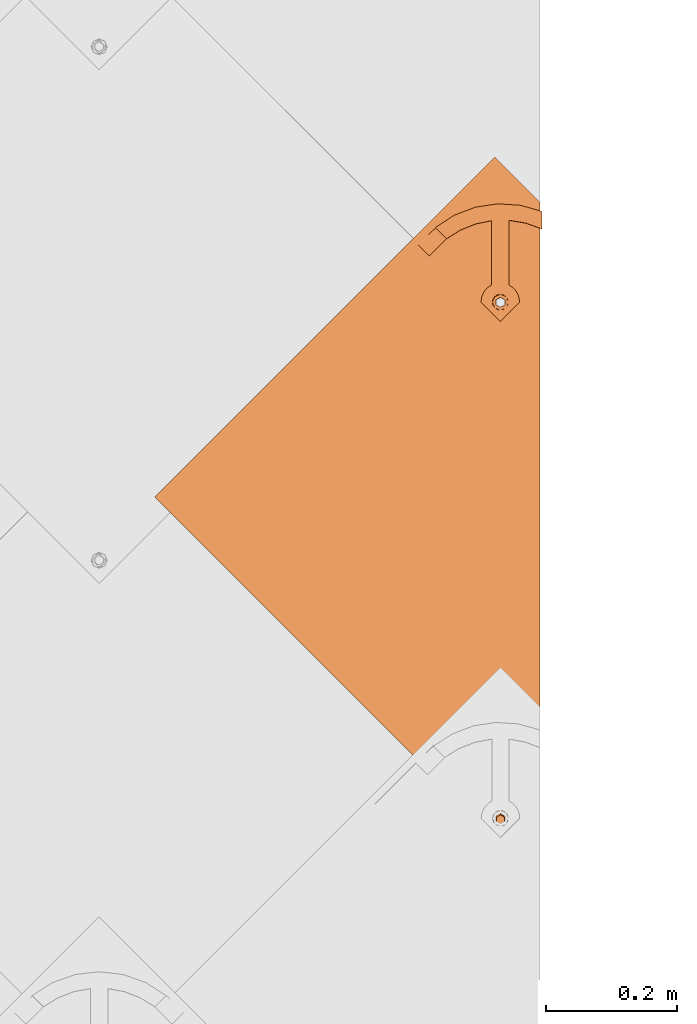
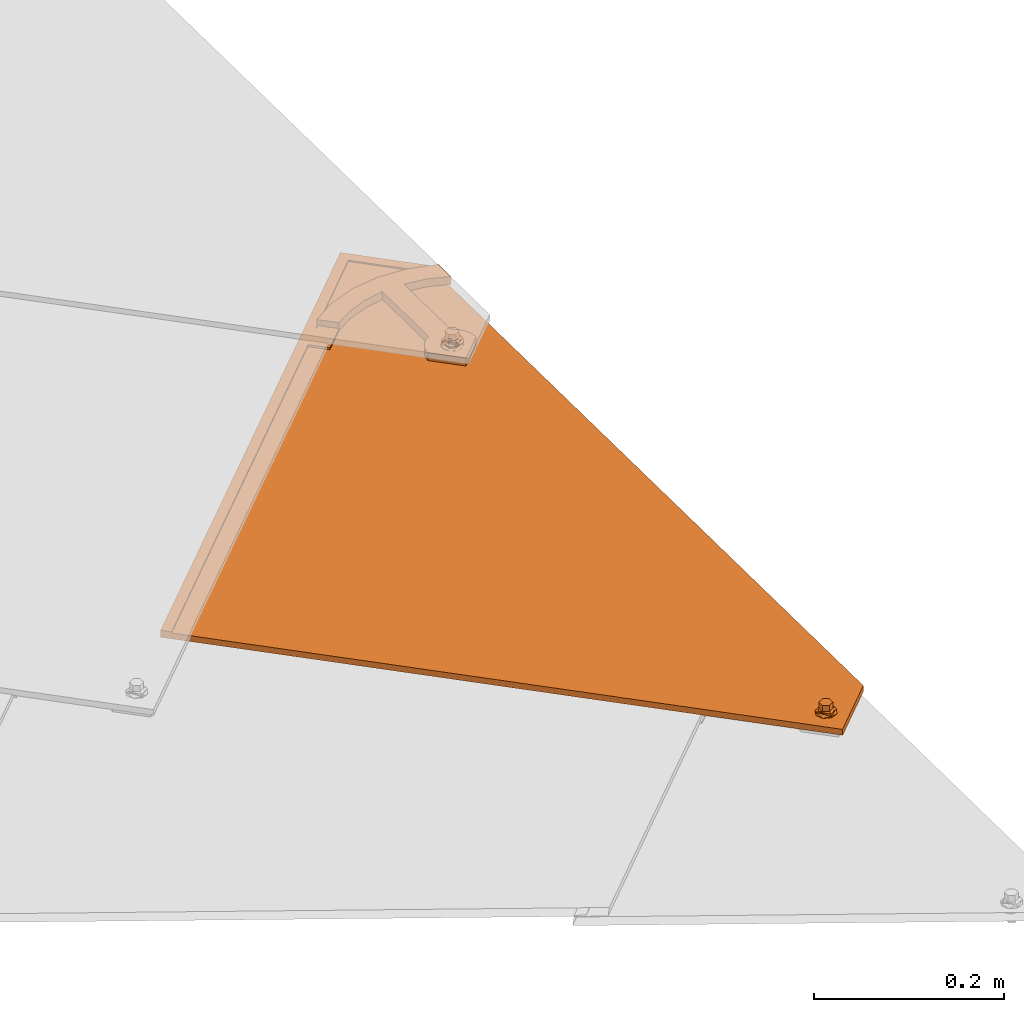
# One storey, part 83 of 151: 1 proxy.
"""IFC2X3 building model written with IfcOpenShell, lengths in millimetres."""

from ifc_helpers import new_model, entity, si_unit, converted_unit, derived_unit, direction, frame, origin, place, context, subcontext, project, spatial, faceted_brep, source, transform, mapped, material, material_list, type_object, type_shapes, element, save


model = new_model("IFC2X3")

# Units and contexts
model_context = context("Model", 3, precision=0.01, world=origin(), true_north=direction((6.12303176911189e-17, 1.0)))
body_context = subcontext(model_context, "Body", "Model", "MODEL_VIEW")
ifc_project = project(units=[si_unit("LENGTHUNIT", "METRE", prefix="MILLI"), si_unit("AREAUNIT", "SQUARE_METRE"), si_unit("VOLUMEUNIT", "CUBIC_METRE"), converted_unit("PLANEANGLEUNIT", "DEGREE", entity("IfcRatioMeasure", 0.0174532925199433), si_unit("PLANEANGLEUNIT", "RADIAN"), dimensions=[0, 0, 0, 0, 0, 0, 0]), si_unit("MASSUNIT", "GRAM", prefix="KILO"), derived_unit("MASSDENSITYUNIT", [(si_unit("MASSUNIT", "GRAM", prefix="KILO"), 1), (si_unit("LENGTHUNIT", "METRE"), -3)]), si_unit("TIMEUNIT", "SECOND"), si_unit("FREQUENCYUNIT", "HERTZ"), si_unit("THERMODYNAMICTEMPERATUREUNIT", "DEGREE_CELSIUS"), derived_unit("THERMALTRANSMITTANCEUNIT", [(si_unit("MASSUNIT", "GRAM", prefix="KILO"), 1), (si_unit("THERMODYNAMICTEMPERATUREUNIT", "KELVIN"), -1), (si_unit("TIMEUNIT", "SECOND"), -3)]), derived_unit("VOLUMETRICFLOWRATEUNIT", [(si_unit("LENGTHUNIT", "METRE"), 3), (si_unit("TIMEUNIT", "SECOND"), -1)]), si_unit("ELECTRICCURRENTUNIT", "AMPERE"), si_unit("ELECTRICVOLTAGEUNIT", "VOLT"), si_unit("POWERUNIT", "WATT"), si_unit("FORCEUNIT", "NEWTON", prefix="KILO"), si_unit("ILLUMINANCEUNIT", "LUX"), si_unit("LUMINOUSFLUXUNIT", "LUMEN"), si_unit("LUMINOUSINTENSITYUNIT", "CANDELA"), derived_unit("USERDEFINED", [(si_unit("MASSUNIT", "GRAM", prefix="KILO"), -1), (si_unit("LENGTHUNIT", "METRE"), -2), (si_unit("TIMEUNIT", "SECOND"), 3), (si_unit("LUMINOUSFLUXUNIT", "LUMEN"), 1)]), derived_unit("LINEARVELOCITYUNIT", [(si_unit("LENGTHUNIT", "METRE"), 1), (si_unit("TIMEUNIT", "SECOND"), -1)]), si_unit("PRESSUREUNIT", "PASCAL"), derived_unit("USERDEFINED", [(si_unit("LENGTHUNIT", "METRE"), -2), (si_unit("MASSUNIT", "GRAM", prefix="KILO"), 1), (si_unit("TIMEUNIT", "SECOND"), -2)])], contexts=[model_context])

# Site, building, storey
site_placement = place(None, origin())
site = spatial("IfcSite", under=ifc_project, at=site_placement, Name="Default", CompositionType="ELEMENT")
building_placement = place(site_placement, origin())
building = spatial("IfcBuilding", under=site, at=building_placement, CompositionType="ELEMENT")
storey_placement = place(building_placement, origin())
storey = spatial("IfcBuildingStorey", under=building, at=storey_placement, Name="Level 1", CompositionType="ELEMENT", Elevation=0.0)

# Proxy
ifc_material_1 = material(Name="Rubber - Sunstyle - Black")
ifc_material_2 = material(Name="Glass - Sunstyle - Tainted Black")
ifc_material_list_1 = material_list([ifc_material_1, ifc_material_2])
ifc_material_list_2 = material_list([ifc_material_1, ifc_material_2])
building_element_proxy_type = type_object("IfcBuildingElementProxyType", Name="Shingle Right - Black", PredefinedType="NOTDEFINED", material=ifc_material_list_2)
shared_shape = source(origin(), body_context, "Body", "Brep", [
    faceted_brep([(526.70519509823, 41.3127833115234, 3.87722628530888), (520.930992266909, 37.9795131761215, 3.9330502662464), (520.930992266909, 38.34782226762, 25.9249196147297), (526.70519509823, 41.6810924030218, 25.8690956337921), (520.930992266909, 31.3129729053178, 4.0446982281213), (520.930992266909, 31.6812819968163, 26.0365675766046), (526.70519509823, 27.979702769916, 4.1005222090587), (526.70519509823, 28.3480118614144, 26.092391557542), (532.47939792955, 31.3129729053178, 4.04469822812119), (532.47939792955, 31.6812819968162, 26.0365675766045), (532.47939792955, 37.9795131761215, 3.93305026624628), (532.47939792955, 38.3478222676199, 25.9249196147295), (518.101490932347, 26.4120542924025, 26.1248140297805), (526.70519509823, 22.8487830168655, 26.1844899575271), (514.537719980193, 35.0145521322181, 25.9807435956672), (518.101490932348, 43.6170499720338, 25.8366731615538), (526.70519509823, 47.1803212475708, 25.776997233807), (535.308899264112, 43.6170499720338, 25.8366731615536), (538.872670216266, 35.0145521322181, 25.9807435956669), (535.308899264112, 26.4120542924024, 26.1248140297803), (515.380950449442, 37.3096292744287, 28.2935855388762), (516.94872054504, 35.0855670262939, 30.2210682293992), (526.70519509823, 42.3986422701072, 30.8537686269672), (526.70519509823, 43.6391399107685, 30.2734219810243), (526.70519509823, 45.7966907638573, 29.2640469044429), (526.70519509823, 23.4048270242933, 27.4595479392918), (526.70519509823, 24.3484036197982, 29.6232523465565), (526.70519509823, 27.7977793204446, 31.0982967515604), (526.70519509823, 46.6672851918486, 27.0699596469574), (520.381949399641, 31.4479950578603, 31.0371647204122), (520.381949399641, 38.7484265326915, 30.9149006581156), (538.029439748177, 32.7982090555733, 28.3691406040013), (536.554075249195, 34.0111605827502, 30.1422000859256), (533.028440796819, 38.7484265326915, 30.9149006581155), (533.028440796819, 31.4479950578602, 31.0371647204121), (520.381949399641, 31.5820235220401, 39.0400528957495), (526.70519509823, 27.9318077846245, 39.1011849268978), (526.70519509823, 35.2322392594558, 38.9789208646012), (520.381949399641, 38.8824549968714, 38.9177888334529), (533.028440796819, 31.5820235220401, 39.0400528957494), (533.028440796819, 38.8824549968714, 38.9177888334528), (526.70519509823, 42.532670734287, 38.8566568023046), (526.70519509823, 34.6462430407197, 3.98887424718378)], [[[0, 1, 2, 3]], [[1, 4, 5, 2]], [[4, 6, 7, 5]], [[6, 8, 9, 7]], [[8, 10, 11, 9]], [[10, 0, 3, 11]], [[12, 7, 13]], [[7, 12, 5]], [[14, 5, 12]], [[5, 14, 2]], [[15, 2, 14]], [[3, 2, 15]], [[15, 16, 3]], [[16, 17, 3]], [[11, 3, 17]], [[11, 17, 18]], [[9, 11, 18]], [[18, 19, 9]], [[7, 9, 19]], [[19, 13, 7]], [[20, 14, 12]], [[21, 22, 23, 24]], [[24, 20, 21]], [[25, 20, 12]], [[26, 27, 21]], [[15, 14, 20]], [[12, 13, 25]], [[20, 28, 15]], [[28, 20, 24]], [[21, 27, 29]], [[21, 29, 30]], [[26, 21, 20]], [[20, 25, 26]], [[15, 28, 16]], [[21, 30, 22]], [[31, 18, 17]], [[28, 31, 17]], [[32, 27, 26]], [[26, 31, 32]], [[26, 25, 31]], [[25, 19, 31]], [[17, 16, 28]], [[31, 19, 18]], [[24, 31, 28]], [[33, 34, 32]], [[23, 22, 33]], [[24, 32, 31]], [[27, 32, 34]], [[32, 23, 33]], [[19, 25, 13]], [[32, 24, 23]], [[35, 36, 37]], [[37, 38, 35]], [[36, 39, 37]], [[40, 37, 39]], [[37, 40, 41]], [[37, 41, 38]], [[42, 6, 4]], [[4, 1, 42]], [[1, 0, 42]], [[42, 8, 6]], [[0, 10, 42]], [[8, 42, 10]], [[22, 30, 38, 41]], [[30, 29, 35, 38]], [[29, 27, 36, 35]], [[27, 34, 39, 36]], [[34, 33, 40, 39]], [[33, 22, 41, 40]]]),
    faceted_brep([(526.70519509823, 811.19100538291, 21.4210230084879), (526.70519509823, 815.690374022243, 21.3456697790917), (518.101490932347, 814.754276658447, 21.3613470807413), (535.308899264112, 814.754276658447, 21.3613470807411), (533.345423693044, 819.523574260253, 21.2814732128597), (538.872670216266, 823.356774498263, 21.2172766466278), (533.345423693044, 827.189974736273, 21.1530800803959), (535.308899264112, 831.959272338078, 21.0732062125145), (526.70519509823, 831.023174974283, 21.0888835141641), (526.70519509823, 835.522543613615, 21.0135302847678), (518.101490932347, 831.959272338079, 21.0732062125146), (520.064966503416, 827.189974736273, 21.1530800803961), (514.537719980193, 823.356774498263, 21.217276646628), (520.064966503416, 819.523574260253, 21.2814732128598), (520.064966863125, 826.922051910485, 5.15532344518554), (526.70519509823, 830.755251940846, 5.09112688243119), (520.064966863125, 819.255651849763, 5.2837165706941), (526.70519509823, 815.422451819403, 5.34791313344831), (533.345423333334, 819.255651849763, 5.28371657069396), (533.345423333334, 826.922051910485, 5.1553234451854), (518.101490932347, 814.486354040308, 5.36359044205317), (526.70519509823, 810.923082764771, 5.4232663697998), (514.537719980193, 823.088851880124, 5.21952000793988), (518.101490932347, 831.69134971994, 5.07544957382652), (526.70519509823, 835.254620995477, 5.01577364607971), (535.308899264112, 831.69134971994, 5.07544957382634), (538.872670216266, 823.088851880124, 5.21952000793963), (535.308899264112, 814.486354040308, 5.36359044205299)], [[[0, 1, 2]], [[1, 0, 3]], [[3, 4, 1]], [[4, 3, 5]], [[6, 4, 5]], [[5, 7, 6]], [[7, 8, 6]], [[8, 7, 9]], [[8, 9, 10]], [[10, 11, 8]], [[12, 11, 10]], [[2, 13, 12]], [[12, 13, 11]], [[13, 2, 1]], [[8, 11, 14, 15]], [[11, 13, 16, 14]], [[13, 1, 17, 16]], [[1, 4, 18, 17]], [[4, 6, 19, 18]], [[6, 8, 15, 19]], [[20, 17, 21]], [[17, 20, 16]], [[22, 16, 20]], [[14, 16, 22]], [[23, 14, 22]], [[15, 14, 23]], [[23, 24, 15]], [[24, 25, 15]], [[19, 15, 25]], [[19, 25, 26]], [[26, 18, 19]], [[26, 27, 18]], [[17, 18, 27]], [[27, 21, 17]], [[24, 23, 10, 9]], [[10, 23, 22, 12]], [[20, 21, 0, 2]], [[20, 2, 12, 22]], [[21, 27, 3, 0]], [[3, 27, 26, 5]], [[25, 24, 9, 7]], [[25, 7, 5, 26]]]),
    faceted_brep([(578.30986553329, 967.15023469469, 8.79467739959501), (586.794551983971, 975.634921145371, 8.65258001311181), (586.794551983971, 975.660038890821, 10.1523696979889), (578.30986553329, 967.17535244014, 10.294467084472), (517.891471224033, 1027.55168765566, 7.7831033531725), (8.48468645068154, 518.287740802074, 16.3120073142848), (0.0, 526.772427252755, 16.1699099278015), (517.891471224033, 1044.51868144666, 7.49894842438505), (517.891471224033, 1044.54379919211, 8.99873810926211), (0.0, 526.797544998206, 17.6696996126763), (8.4846864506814, 518.312858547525, 17.8117969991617), (517.891471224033, 1027.57680540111, 9.28289303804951)], [[[0, 1, 2, 3]], [[1, 0, 4, 5, 6, 7]], [[2, 1, 7, 8]], [[3, 2, 8, 9, 10, 11]], [[0, 3, 11, 4]], [[5, 10, 9, 6]], [[8, 7, 6, 9]], [[4, 11, 10, 5]]]),
    faceted_brep([(586.794551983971, 975.634921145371, 8.65258001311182), (517.891471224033, 1044.51868144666, 7.49894842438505), (523.812678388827, 834.561085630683, 11.0152157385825), (526.918506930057, 834.969918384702, 11.0083688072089), (530.024335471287, 834.561085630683, 11.0152157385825), (532.918506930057, 833.362448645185, 11.0352899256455), (535.403788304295, 831.455692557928, 11.0672233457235), (537.31081177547, 828.970759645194, 11.1088397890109), (538.509616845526, 826.076993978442, 11.1573031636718), (538.918506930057, 822.971600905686, 11.2093107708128), (538.509616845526, 819.86620783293, 11.2613183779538), (586.79455198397, 60.1087646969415, 23.9853651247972), (520.918506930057, 833.362448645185, 11.0352899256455), (518.433225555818, 831.455692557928, 11.0672233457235), (516.526202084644, 828.970759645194, 11.1088397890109), (515.327397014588, 826.076993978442, 11.1573031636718), (0.0, 526.772427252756, 16.1699099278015), (514.918506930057, 822.971600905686, 11.2093107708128), (515.327397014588, 819.86620783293, 11.2613183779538), (516.526202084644, 816.972442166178, 11.3097817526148), (518.433225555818, 814.487509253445, 11.3513981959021), (520.918506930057, 812.580753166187, 11.3833316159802), (523.812678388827, 811.382116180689, 11.4034058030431), (524.667140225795, 42.642731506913, 24.2778777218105), (522.737692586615, 41.8436401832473, 24.2912605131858), (521.080838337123, 40.572469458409, 24.3125494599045), (519.80948935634, 38.9158475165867, 24.3402937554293), (519.010285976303, 36.9866704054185, 24.37260267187), (518.737692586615, 34.9164083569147, 24.407274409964), (519.010285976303, 32.8461463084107, 24.441946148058), (526.794551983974, 0.125588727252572, 24.989934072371), (519.80948935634, 30.9169691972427, 24.4742550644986), (533.665895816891, 30.9169691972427, 24.4742550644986), (532.394546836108, 29.2603472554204, 24.5019993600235), (530.737692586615, 27.9891765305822, 24.5232883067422), (528.808244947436, 27.1900852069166, 24.5366710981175), (526.737692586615, 26.9175300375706, 24.5412357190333), (524.667140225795, 27.1900852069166, 24.5366710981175), (522.737692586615, 27.9891765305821, 24.5232883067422), (521.080838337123, 29.2603472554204, 24.5019993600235), (526.737692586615, 42.9152866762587, 24.2733131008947), (528.808244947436, 42.6427315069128, 24.2778777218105), (530.737692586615, 41.8436401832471, 24.2912605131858), (532.394546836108, 40.572469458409, 24.3125494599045), (533.665895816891, 38.9158475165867, 24.3402937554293), (534.465099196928, 36.9866704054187, 24.37260267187), (534.737692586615, 34.9164083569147, 24.407274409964), (534.465099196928, 32.8461463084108, 24.441946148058), (526.918506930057, 810.97328342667, 11.4102527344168), (537.31081177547, 816.972442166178, 11.3097817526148), (535.403788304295, 814.487509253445, 11.3513981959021), (532.918506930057, 812.580753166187, 11.3833316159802), (530.024335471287, 811.382116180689, 11.4034058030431), (0.0, 526.646838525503, 8.67096150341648), (519.80948935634, 38.790258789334, 16.8413453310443), (519.010285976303, 36.8610816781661, 16.8736542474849), (521.080838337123, 40.4468807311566, 16.8136010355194), (518.737692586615, 34.7908196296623, 16.9083259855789), (519.010285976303, 32.7205575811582, 16.9429977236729), (526.794551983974, 0.0, 17.4909856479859), (522.737692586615, 41.7180514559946, 16.7923120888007), (524.667140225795, 42.5171427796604, 16.7789292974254), (523.812678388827, 811.256527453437, 3.90445737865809), (520.918506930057, 812.455164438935, 3.88438319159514), (518.433225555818, 814.361920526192, 3.85244977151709), (516.526202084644, 816.846853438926, 3.81083332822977), (515.327397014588, 819.740619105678, 3.76236995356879), (514.918506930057, 822.846012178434, 3.71036234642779), (515.327397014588, 825.95140525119, 3.65835473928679), (517.891471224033, 1044.39309271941, 0.0), (516.526202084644, 828.845170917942, 3.60989136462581), (518.433225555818, 831.330103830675, 3.56827492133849), (520.918506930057, 833.236859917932, 3.53634150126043), (523.812678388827, 834.435496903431, 3.51626731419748), (586.794551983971, 975.509332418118, 1.15363158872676), (526.918506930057, 834.84432965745, 3.50942038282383), (530.024335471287, 834.435496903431, 3.51626731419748), (532.918506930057, 833.236859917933, 3.53634150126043), (535.403788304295, 831.330103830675, 3.56827492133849), (537.31081177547, 828.845170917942, 3.60989136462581), (538.509616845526, 825.95140525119, 3.65835473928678), (538.918506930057, 822.846012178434, 3.71036234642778), (538.509616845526, 819.740619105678, 3.76236995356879), (586.79455198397, 59.983175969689, 16.4864167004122), (526.737692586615, 42.7896979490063, 16.7743646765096), (528.808244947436, 42.5171427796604, 16.7789292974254), (530.737692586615, 41.7180514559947, 16.7923120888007), (532.394546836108, 40.4468807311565, 16.8136010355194), (533.665895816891, 30.7913804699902, 16.9753066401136), (534.465099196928, 32.7205575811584, 16.9429977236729), (534.737692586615, 34.7908196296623, 16.9083259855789), (534.465099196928, 36.8610816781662, 16.8736542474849), (533.665895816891, 38.7902587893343, 16.8413453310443), (526.918506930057, 810.847694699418, 3.91130431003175), (530.024335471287, 811.256527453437, 3.90445737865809), (532.918506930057, 812.455164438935, 3.88438319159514), (535.403788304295, 814.361920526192, 3.85244977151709), (537.31081177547, 816.846853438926, 3.81083332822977), (519.80948935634, 30.7913804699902, 16.9753066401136), (521.080838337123, 29.134758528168, 17.0030509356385), (522.737692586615, 27.8635878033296, 17.0243398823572), (524.667140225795, 27.0644964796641, 17.0377226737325), (526.737692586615, 26.7919413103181, 17.0422872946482), (528.808244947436, 27.0644964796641, 17.0377226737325), (530.737692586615, 27.8635878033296, 17.0243398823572), (532.394546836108, 29.1347585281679, 17.0030509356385)], [[[0, 1, 2]], [[0, 2, 3]], [[3, 4, 0]], [[4, 5, 0]], [[0, 5, 6]], [[6, 7, 0]], [[7, 8, 0]], [[8, 9, 0]], [[9, 10, 0]], [[0, 10, 11]], [[2, 1, 12]], [[13, 12, 1]], [[14, 13, 1]], [[14, 1, 15]], [[15, 1, 16]], [[16, 17, 15]], [[17, 16, 18]], [[19, 18, 16]], [[19, 16, 20]], [[21, 20, 16]], [[22, 21, 16]], [[23, 22, 16]], [[24, 23, 16]], [[16, 25, 24]], [[25, 16, 26]], [[26, 16, 27]], [[28, 27, 16]], [[28, 16, 29]], [[29, 16, 30]], [[30, 31, 29]], [[11, 32, 30]], [[30, 32, 33]], [[34, 30, 33]], [[34, 35, 30]], [[36, 30, 35]], [[30, 36, 37]], [[37, 38, 30]], [[38, 39, 30]], [[39, 31, 30]], [[23, 11, 22]], [[11, 23, 40]], [[11, 40, 41]], [[11, 41, 42]], [[42, 43, 11]], [[44, 11, 43]], [[44, 45, 11]], [[45, 46, 11]], [[47, 11, 46]], [[11, 47, 32]], [[22, 11, 48]], [[10, 49, 11]], [[49, 50, 11]], [[50, 51, 11]], [[51, 52, 11]], [[52, 48, 11]], [[53, 54, 55]], [[54, 53, 56]], [[53, 55, 57]], [[57, 58, 53]], [[53, 58, 59]], [[60, 56, 53]], [[61, 60, 53]], [[61, 53, 62]], [[62, 53, 63]], [[53, 64, 63]], [[64, 53, 65]], [[65, 53, 66]], [[66, 53, 67]], [[67, 53, 68]], [[53, 69, 68]], [[70, 68, 69]], [[71, 70, 69]], [[69, 72, 71]], [[73, 72, 69]], [[73, 69, 74]], [[75, 73, 74]], [[75, 74, 76]], [[77, 76, 74]], [[74, 78, 77]], [[79, 78, 74]], [[80, 79, 74]], [[80, 74, 81]], [[81, 74, 82]], [[82, 74, 83]], [[84, 61, 83]], [[83, 85, 84]], [[86, 85, 83]], [[83, 87, 86]], [[59, 88, 83]], [[83, 88, 89]], [[90, 83, 89]], [[90, 91, 83]], [[91, 92, 83]], [[87, 83, 92]], [[62, 83, 61]], [[93, 83, 62]], [[83, 93, 94]], [[94, 95, 83]], [[83, 95, 96]], [[96, 97, 83]], [[97, 82, 83]], [[59, 58, 98]], [[99, 59, 98]], [[99, 100, 59]], [[100, 101, 59]], [[102, 59, 101]], [[59, 102, 103]], [[59, 103, 104]], [[104, 105, 59]], [[105, 88, 59]], [[16, 1, 69, 53]], [[30, 16, 53, 59]], [[11, 30, 59, 83]], [[1, 0, 74, 69]], [[28, 57, 55, 27]], [[27, 55, 54, 26]], [[24, 25, 56, 60]], [[56, 25, 26, 54]], [[23, 24, 60, 61]], [[23, 61, 84, 40]], [[40, 84, 85, 41]], [[41, 85, 86, 42]], [[44, 43, 87, 92]], [[87, 43, 42, 86]], [[45, 44, 92, 91]], [[45, 91, 90, 46]], [[46, 90, 89, 47]], [[47, 89, 88, 32]], [[34, 33, 105, 104]], [[105, 33, 32, 88]], [[35, 34, 104, 103]], [[35, 103, 102, 36]], [[36, 102, 101, 37]], [[37, 101, 100, 38]], [[31, 39, 99, 98]], [[39, 38, 100, 99]], [[58, 29, 31, 98]], [[29, 58, 57, 28]], [[17, 67, 68, 15]], [[15, 68, 70, 14]], [[12, 13, 71, 72]], [[71, 13, 14, 70]], [[2, 12, 72, 73]], [[2, 73, 75, 3]], [[3, 75, 76, 4]], [[4, 76, 77, 5]], [[7, 6, 78, 79]], [[78, 6, 5, 77]], [[8, 7, 79, 80]], [[8, 80, 81, 9]], [[9, 81, 82, 10]], [[10, 82, 97, 49]], [[51, 50, 96, 95]], [[96, 50, 49, 97]], [[52, 51, 95, 94]], [[52, 94, 93, 48]], [[48, 93, 62, 22]], [[22, 62, 63, 21]], [[19, 20, 64, 65]], [[64, 20, 21, 63]], [[18, 19, 65, 66]], [[18, 66, 67, 17]], [[0, 11, 83, 74]]]),
    faceted_brep([(503.195324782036, 841.557074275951, 20.8994526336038), (517.914693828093, 832.008099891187, 21.0593741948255), (507.695869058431, 846.190079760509, 20.8218613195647), (516.007670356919, 829.523166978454, 21.1009906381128), (499.815755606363, 836.052923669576, 20.9916334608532), (514.808865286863, 826.629401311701, 21.1494540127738), (497.720422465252, 829.943523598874, 21.0939507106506), (514.399975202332, 823.524008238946, 21.2014616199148), (497.010547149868, 823.524008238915, 21.2014616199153), (514.808865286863, 820.41861516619, 21.2534692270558), (516.007670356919, 817.524849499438, 21.3019326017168), (517.914693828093, 815.039916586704, 21.3435490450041), (526.399975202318, 794.138700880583, 21.6935924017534), (520.399975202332, 813.133160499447, 21.3754824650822), (523.294146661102, 811.934523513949, 21.3955566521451), (526.399975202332, 811.52569075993, 21.4024035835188), (529.505803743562, 811.934523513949, 21.3955566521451), (532.399975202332, 813.133160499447, 21.3754824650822), (534.885256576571, 815.039916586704, 21.3435490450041), (555.789403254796, 823.524008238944, 21.2014616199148), (536.792280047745, 817.524849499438, 21.3019326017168), (537.991085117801, 820.41861516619, 21.2534692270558), (538.399975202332, 823.524008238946, 21.2014616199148), (555.079527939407, 829.943523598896, 21.0939507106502), (537.991085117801, 826.629401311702, 21.1494540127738), (552.984194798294, 836.052923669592, 20.9916334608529), (536.792280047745, 829.523166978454, 21.1009906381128), (549.604625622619, 841.557074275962, 20.8994526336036), (534.88525657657, 832.008099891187, 21.0593741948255), (545.104081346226, 846.190079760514, 20.8218613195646), (532.399975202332, 833.914855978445, 21.0274407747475), (539.69997520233, 849.728127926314, 20.7626078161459), (529.505803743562, 835.113492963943, 21.0073665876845), (526.399975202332, 835.522325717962, 21.0005196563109), (513.09997520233, 849.728127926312, 20.762607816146), (513.099975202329, 947.789128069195, 19.1203300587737), (539.699975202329, 948.373752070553, 19.1105390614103), (522.252457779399, 973.425526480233, 18.6909841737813), (556.520926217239, 971.308509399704, 18.7264389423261), (565.239246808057, 944.126992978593, 19.1816617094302), (589.568348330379, 961.999667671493, 18.8823388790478), (589.568348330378, 935.274464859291, 19.3299195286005), (488.310294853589, 968.25512753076, 18.7775754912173), (488.729131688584, 942.717602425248, 19.2052654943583), (456.227055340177, 956.030775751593, 18.9823029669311), (465.633151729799, 933.432284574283, 19.3607714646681), (444.534595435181, 920.223666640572, 19.5819829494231), (427.451419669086, 937.304447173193, 19.2959223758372), (520.399975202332, 833.914855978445, 21.0274407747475), (523.294146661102, 835.113492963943, 21.0073665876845), (526.399975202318, 793.971249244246, 11.6949945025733), (526.399975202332, 811.358239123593, 11.4038056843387), (529.505803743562, 811.767071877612, 11.396958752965), (523.294146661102, 811.767071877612, 11.396958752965), (532.399975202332, 812.96570886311, 11.3768845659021), (534.885256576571, 814.872464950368, 11.344951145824), (555.789403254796, 823.356556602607, 11.2028637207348), (520.399975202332, 812.96570886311, 11.3768845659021), (517.914693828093, 814.872464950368, 11.344951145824), (497.010547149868, 823.356556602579, 11.2028637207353), (516.007670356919, 817.357397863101, 11.3033347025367), (514.808865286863, 820.251163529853, 11.2548713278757), (514.399975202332, 823.356556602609, 11.2028637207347), (497.720422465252, 829.776071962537, 11.0953528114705), (514.808865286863, 826.461949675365, 11.1508561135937), (499.815755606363, 835.885472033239, 10.9930355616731), (516.007670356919, 829.355715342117, 11.1023927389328), (503.195324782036, 841.389622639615, 10.9008547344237), (517.914693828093, 831.84064825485, 11.0607762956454), (507.695869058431, 846.022628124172, 10.8232634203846), (520.399975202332, 833.747404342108, 11.0288428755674), (513.09997520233, 849.560676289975, 10.7640099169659), (523.294146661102, 834.946041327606, 11.0087686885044), (526.399975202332, 835.354874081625, 11.0019217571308), (539.69997520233, 849.560676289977, 10.7640099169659), (513.099975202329, 947.621676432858, 9.12173215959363), (539.69997520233, 948.206300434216, 9.11194116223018), (522.252457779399, 973.258074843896, 8.69238627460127), (488.310294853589, 968.087675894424, 8.77897759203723), (488.729131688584, 942.550150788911, 9.20666759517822), (456.227055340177, 955.863324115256, 8.98370506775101), (465.633151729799, 933.264832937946, 9.36217356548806), (444.533467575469, 920.055518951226, 9.58339670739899), (428.044288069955, 936.544210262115, 9.30725215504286), (421.793762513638, 931.184466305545, 9.39701453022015), (415.826529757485, 925.515365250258, 9.49195786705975), (418.207622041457, 893.733364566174, 10.0242272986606), (401.122816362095, 910.815774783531, 9.73813943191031), (427.451419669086, 937.136995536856, 9.29732447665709), (556.520926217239, 971.141057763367, 8.727841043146), (565.239246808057, 943.959541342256, 9.18306381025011), (589.568348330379, 961.832216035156, 8.88374097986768), (589.568348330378, 935.107013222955, 9.33132162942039), (529.505803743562, 834.946041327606, 11.0087686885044), (532.399975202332, 833.747404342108, 11.0288428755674), (545.104081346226, 846.022628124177, 10.8232634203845), (534.88525657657, 831.84064825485, 11.0607762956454), (549.604625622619, 841.389622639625, 10.9008547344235), (536.792280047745, 829.355715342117, 11.1023927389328), (552.984194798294, 835.885472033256, 10.9930355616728), (537.991085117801, 826.461949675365, 11.1508561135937), (555.079527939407, 829.77607196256, 11.0953528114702), (538.399975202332, 823.356556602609, 11.2028637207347), (537.991085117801, 820.251163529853, 11.2548713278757), (536.792280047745, 817.357397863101, 11.3033347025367), (415.826529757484, 925.557228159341, 11.9916073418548), (401.122816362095, 910.857637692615, 12.2377889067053), (418.207622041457, 893.775227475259, 12.5238767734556), (444.534595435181, 920.09807791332, 12.083034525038), (428.042008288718, 936.584216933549, 11.8069327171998), (421.793762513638, 931.226329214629, 11.8966640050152)], [[[0, 1, 2]], [[3, 1, 0]], [[4, 3, 0]], [[5, 3, 4]], [[4, 6, 5]], [[6, 7, 5]], [[7, 6, 8]], [[9, 7, 8]], [[10, 9, 8]], [[10, 8, 11]], [[8, 12, 11]], [[13, 11, 12]], [[13, 12, 14]], [[12, 15, 14]], [[15, 12, 16]], [[16, 12, 17]], [[18, 17, 12]], [[18, 12, 19]], [[19, 20, 18]], [[21, 20, 19]], [[22, 21, 19]], [[19, 23, 22]], [[24, 22, 23]], [[23, 25, 24]], [[25, 26, 24]], [[26, 25, 27]], [[28, 26, 27]], [[27, 29, 28]], [[30, 28, 29]], [[29, 31, 30]], [[30, 31, 32]], [[32, 31, 33]], [[31, 34, 33]], [[35, 34, 31]], [[35, 31, 36]], [[36, 37, 35]], [[36, 38, 37]], [[39, 38, 36]], [[38, 39, 40]], [[41, 40, 39]], [[37, 42, 35]], [[35, 42, 43]], [[43, 42, 44]], [[44, 45, 43]], [[44, 46, 45]], [[46, 44, 47]], [[48, 34, 2]], [[48, 49, 34]], [[34, 49, 33]], [[48, 2, 1]], [[50, 51, 52]], [[51, 50, 53]], [[50, 52, 54]], [[54, 55, 50]], [[50, 55, 56]], [[57, 53, 50]], [[58, 57, 50]], [[58, 50, 59]], [[59, 60, 58]], [[60, 59, 61]], [[61, 59, 62]], [[63, 62, 59]], [[64, 62, 63]], [[63, 65, 64]], [[64, 65, 66]], [[65, 67, 66]], [[68, 66, 67]], [[69, 68, 67]], [[69, 70, 68]], [[70, 69, 71]], [[71, 72, 70]], [[71, 73, 72]], [[74, 73, 71]], [[71, 75, 74]], [[75, 76, 74]], [[76, 75, 77]], [[77, 75, 78]], [[79, 78, 75]], [[80, 78, 79]], [[79, 81, 80]], [[81, 82, 80]], [[82, 83, 80]], [[84, 83, 82]], [[84, 82, 85]], [[82, 86, 85]], [[86, 87, 85]], [[83, 88, 80]], [[76, 77, 89]], [[89, 90, 76]], [[90, 89, 91]], [[91, 92, 90]], [[93, 73, 74]], [[74, 94, 93]], [[94, 74, 95]], [[95, 96, 94]], [[95, 97, 96]], [[96, 97, 98]], [[99, 98, 97]], [[99, 100, 98]], [[101, 100, 99]], [[102, 100, 101]], [[56, 102, 101]], [[103, 102, 56]], [[56, 55, 104]], [[103, 56, 104]], [[34, 35, 75, 71]], [[2, 34, 71, 69]], [[0, 2, 69, 67]], [[67, 65, 4, 0]], [[6, 4, 65, 63]], [[8, 6, 63, 59]], [[12, 8, 59, 50]], [[19, 12, 50, 56]], [[23, 19, 56, 101]], [[25, 23, 101, 99]], [[99, 97, 27, 25]], [[29, 27, 97, 95]], [[31, 29, 95, 74]], [[36, 31, 74, 76]], [[38, 40, 91, 89]], [[37, 38, 89, 77]], [[77, 78, 42, 37]], [[44, 42, 78, 80]], [[47, 44, 80, 88]], [[7, 62, 64, 5]], [[5, 64, 66, 3]], [[48, 1, 68, 70]], [[66, 68, 1, 3]], [[49, 48, 70, 72]], [[73, 33, 49, 72]], [[32, 93, 94, 30]], [[30, 94, 96, 28]], [[24, 26, 98, 100]], [[96, 98, 26, 28]], [[22, 24, 100, 102]], [[32, 33, 73, 93]], [[22, 102, 103, 21]], [[21, 103, 104, 20]], [[17, 18, 55, 54]], [[104, 55, 18, 20]], [[16, 17, 54, 52]], [[51, 15, 16, 52]], [[14, 53, 57, 13]], [[13, 57, 58, 11]], [[9, 10, 60, 61]], [[58, 60, 10, 11]], [[7, 9, 61, 62]], [[14, 15, 51, 53]], [[105, 106, 107, 108, 109, 110]], [[107, 106, 87, 86]], [[108, 107, 82]], [[86, 82, 107]], [[109, 83, 110]], [[110, 83, 84]], [[84, 85, 105, 110]], [[106, 105, 85, 87]], [[46, 47, 109]], [[109, 47, 88]], [[46, 109, 108]], [[83, 109, 88]], [[108, 81, 45, 46]], [[108, 82, 81]], [[79, 75, 35, 43]], [[81, 79, 43, 45]], [[76, 90, 39, 36]], [[92, 41, 39, 90]], [[40, 41, 92, 91]]]),
])
type_shapes(building_element_proxy_type, [shared_shape])
proxy_placement = place(storey_placement, frame((-16456.7674274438, 14937.5625902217, 0.129142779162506)))
element("IfcBuildingElementProxy", 1, at=proxy_placement, inside=storey, type_object=building_element_proxy_type, material=ifc_material_list_1, Name="Roofing_Panels_SunStyle_Tile_Shingle-Right:Shingle Right - Black", ObjectType="Roofing_Panels_SunStyle_Tile_Shingle-Right:Shingle Right - Black", context=body_context, shape_type="MappedRepresentation", body=[
    mapped(shared_shape, transform((0.0, 0.0, 0.0), scale=1.0)),
])

save(model, "model.ifc")
